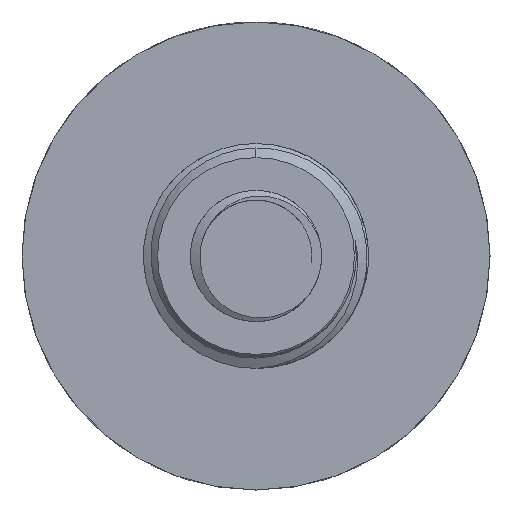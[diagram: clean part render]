
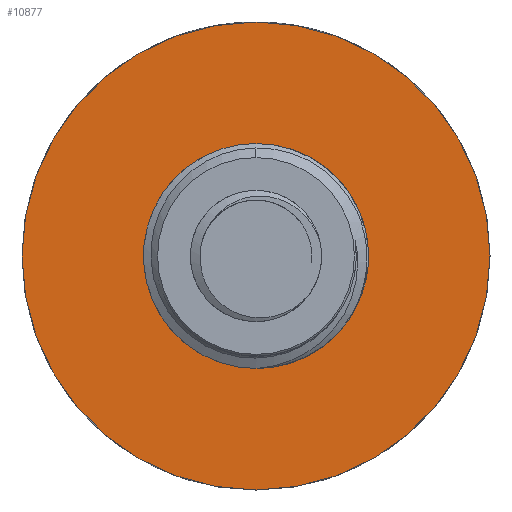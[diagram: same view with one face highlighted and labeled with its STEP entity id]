
A CAD part, left-side view. The second image highlights one B-rep face of the part: STEP entity #10877.
In plain terms, the highlighted planar face has unit normal (-1, 0, 0).
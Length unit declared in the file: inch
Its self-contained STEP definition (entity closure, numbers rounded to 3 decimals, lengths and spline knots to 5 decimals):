
#10 = AXIS2_PLACEMENT_3D ( 'NONE', #3454, #9951, #4402 ) ;
#248 = EDGE_LOOP ( 'NONE', ( #9737, #11077 ) ) ;
#812 = CIRCLE ( 'NONE', #8163, 0.375 ) ;
#834 = DIRECTION ( 'NONE',  ( -1., 0., 0. ) ) ;
#1084 = CARTESIAN_POINT ( 'NONE',  ( -0.85, 0., 0. ) ) ;
#1112 = CARTESIAN_POINT ( 'NONE',  ( -0.85, 0., 0. ) ) ;
#1305 = CARTESIAN_POINT ( 'NONE',  ( -0.85, 0., 0.78 ) ) ;
#1507 = EDGE_LOOP ( 'NONE', ( #7018, #7988 ) ) ;
#1516 = CARTESIAN_POINT ( 'NONE',  ( -0.85, 0., 0. ) ) ;
#1994 = DIRECTION ( 'NONE',  ( 0., 0., -1. ) ) ;
#2021 = DIRECTION ( 'NONE',  ( 0., 0., -1. ) ) ;
#2038 = CARTESIAN_POINT ( 'NONE',  ( -0.85, 0., -0.78 ) ) ;
#2164 = AXIS2_PLACEMENT_3D ( 'NONE', #1516, #9882, #4335 ) ;
#2176 = VERTEX_POINT ( 'NONE', #5266 ) ;
#2304 = CIRCLE ( 'NONE', #2849, 0.78 ) ;
#2328 = CIRCLE ( 'NONE', #6967, 0.375 ) ;
#2849 = AXIS2_PLACEMENT_3D ( 'NONE', #6370, #834, #7313 ) ;
#2934 = CIRCLE ( 'NONE', #10, 0.78 ) ;
#3082 = EDGE_CURVE ( 'NONE', #9088, #2176, #812, .T. ) ;
#3238 = VERTEX_POINT ( 'NONE', #2038 ) ;
#3454 = CARTESIAN_POINT ( 'NONE',  ( -0.85, 0., 0. ) ) ;
#3528 = VERTEX_POINT ( 'NONE', #1305 ) ;
#4319 = FACE_OUTER_BOUND ( 'NONE', #248, .T. ) ;
#4335 = DIRECTION ( 'NONE',  ( 0., 0., -1. ) ) ;
#4402 = DIRECTION ( 'NONE',  ( 0., 0., 1. ) ) ;
#4647 = FACE_BOUND ( 'NONE', #1507, .T. ) ;
#5266 = CARTESIAN_POINT ( 'NONE',  ( -0.85, 0., -0.375 ) ) ;
#5275 = EDGE_CURVE ( 'NONE', #3238, #3528, #2934, .T. ) ;
#6370 = CARTESIAN_POINT ( 'NONE',  ( -0.85, 0., 0. ) ) ;
#6812 = EDGE_CURVE ( 'NONE', #2176, #9088, #2328, .T. ) ;
#6967 = AXIS2_PLACEMENT_3D ( 'NONE', #1112, #7585, #2021 ) ;
#7018 = ORIENTED_EDGE ( 'NONE', *, *, #6812, .T. ) ;
#7313 = DIRECTION ( 'NONE',  ( 0., 0., 1. ) ) ;
#7557 = DIRECTION ( 'NONE',  ( 1., 0., 0. ) ) ;
#7585 = DIRECTION ( 'NONE',  ( 1., 0., 0. ) ) ;
#7988 = ORIENTED_EDGE ( 'NONE', *, *, #3082, .T. ) ;
#8163 = AXIS2_PLACEMENT_3D ( 'NONE', #1084, #7557, #1994 ) ;
#8954 = PLANE ( 'NONE',  #2164 ) ;
#9088 = VERTEX_POINT ( 'NONE', #11911 ) ;
#9737 = ORIENTED_EDGE ( 'NONE', *, *, #9952, .T. ) ;
#9882 = DIRECTION ( 'NONE',  ( 1., 0., 0. ) ) ;
#9951 = DIRECTION ( 'NONE',  ( -1., 0., 0. ) ) ;
#9952 = EDGE_CURVE ( 'NONE', #3528, #3238, #2304, .T. ) ;
#10877 = ADVANCED_FACE ( 'NONE', ( #4647, #4319 ), #8954, .F. ) ;
#11077 = ORIENTED_EDGE ( 'NONE', *, *, #5275, .T. ) ;
#11911 = CARTESIAN_POINT ( 'NONE',  ( -0.85, 0., 0.375 ) ) ;
